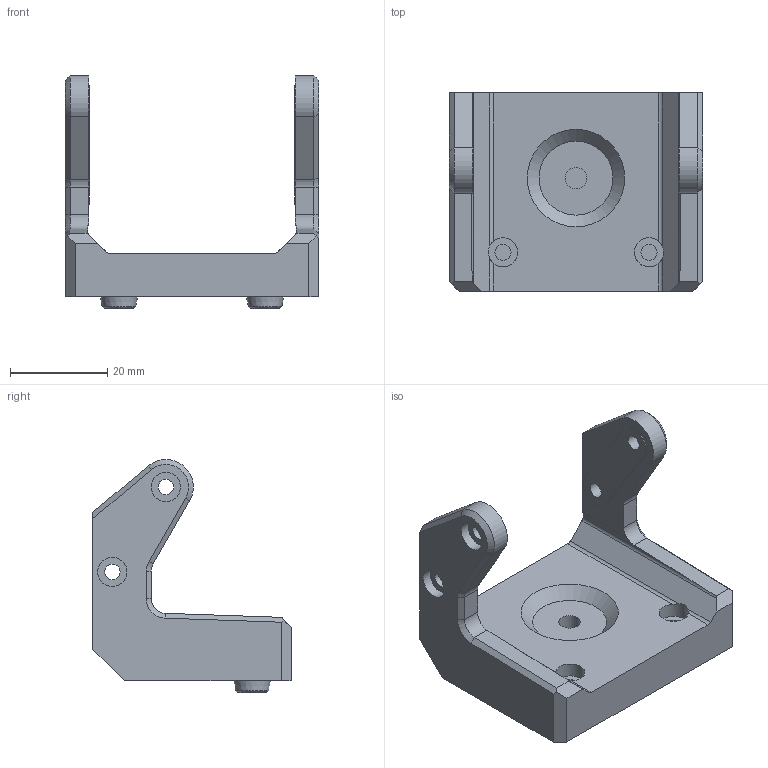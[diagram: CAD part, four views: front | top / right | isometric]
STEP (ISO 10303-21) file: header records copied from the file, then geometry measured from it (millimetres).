
FILE_DESCRIPTION(/* description */ (''),/* implementation_level */ '2;1');
FILE_NAME(/* name */ 'HMG7-Bondtech-LGX-Rear-Mount.step',/* time_stamp */ '2022-11-01T22:00:46-07:00',/* author */ (''),/* organization */ (''),/* preprocessor_version */ 'ST-DEVELOPER v19.2',/* originating_system */ 'Autodesk Translation Framework v11.17.0.187',/* authorisation */ '');
FILE_SCHEMA (('AUTOMOTIVE_DESIGN { 1 0 10303 214 3 1 1 }'));
Length unit declared in the file: millimetre
Products named in the file (3): GEN_7_1.5; LGX; LGX_Mount_Plate
Assembly tree (2 placements, depth 3):
  GEN_7_1.5
    LGX
      LGX_Mount_Plate
Bounding box: 52 x 40.73 x 47.88 mm (x, y, z)
Volume: 23305.2 mm3; surface area: 9171.7 mm2
Topology: 1 solids, 1 shells, 97 faces, 229 edges, 148 vertices
Faces by surface type: plane 55, cylinder 27, cone 15
Full cylindrical faces by diameter (mm): 3.2 x6, 3.3 x2, 4.4 x1, 6 x6
Entity records: 2897 total; most frequent: DIRECTION 511, CARTESIAN_POINT 499, ORIENTED_EDGE 458, EDGE_CURVE 229, AXIS2_PLACEMENT_3D 184, VERTEX_POINT 148, LINE 143, VECTOR 143
